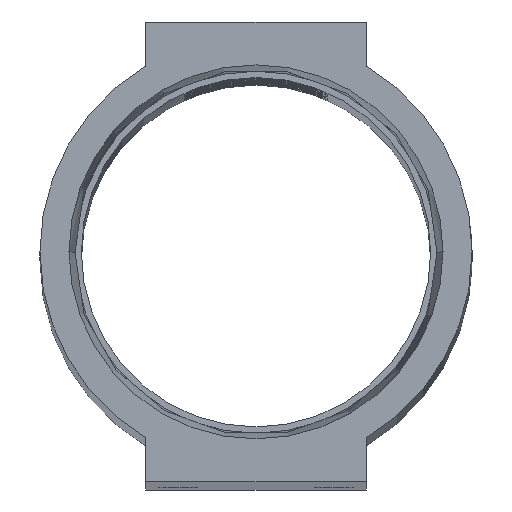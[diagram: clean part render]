
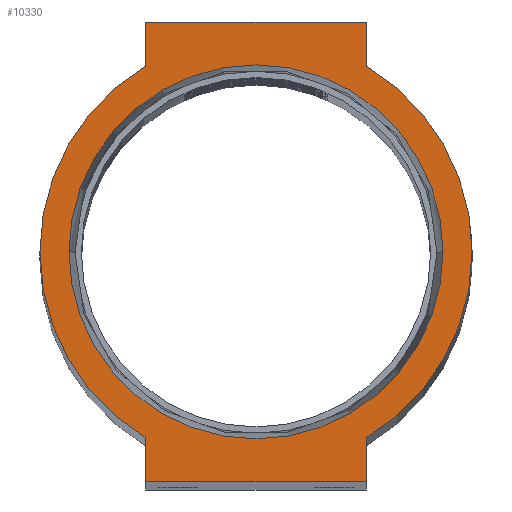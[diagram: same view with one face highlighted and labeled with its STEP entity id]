
A CAD part, top view. The second image highlights one B-rep face of the part: STEP entity #10330.
In plain terms, the highlighted planar face has unit normal (0, 0, 1).
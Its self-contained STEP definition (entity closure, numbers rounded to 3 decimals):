
#141 = ORIENTED_EDGE ( 'NONE', *, *, #13981, .F. ) ;
#536 = CIRCLE ( 'NONE', #14113, 20.34 ) ;
#713 = DIRECTION ( 'NONE',  ( 0., 0., 1. ) ) ;
#812 = DIRECTION ( 'NONE',  ( 1., 0., 0. ) ) ;
#1009 = CARTESIAN_POINT ( 'NONE',  ( 12., 25., 0. ) ) ;
#1186 = EDGE_CURVE ( 'NONE', #9439, #4131, #536, .T. ) ;
#1309 = VECTOR ( 'NONE', #5807, 1000. ) ;
#1314 = EDGE_CURVE ( 'NONE', #13382, #2453, #3136, .T. ) ;
#1426 = LINE ( 'NONE', #5742, #1309 ) ;
#1614 = CARTESIAN_POINT ( 'NONE',  ( 12., 25., 0. ) ) ;
#1709 = CARTESIAN_POINT ( 'NONE',  ( -12., -20.205, 0. ) ) ;
#1791 = FACE_OUTER_BOUND ( 'NONE', #8134, .T. ) ;
#1909 = ORIENTED_EDGE ( 'NONE', *, *, #4940, .T. ) ;
#2042 = ORIENTED_EDGE ( 'NONE', *, *, #8320, .T. ) ;
#2146 = CIRCLE ( 'NONE', #9281, 23.5 ) ;
#2237 = EDGE_CURVE ( 'NONE', #2453, #14073, #2146, .T. ) ;
#2453 = VERTEX_POINT ( 'NONE', #3851 ) ;
#2589 = ORIENTED_EDGE ( 'NONE', *, *, #8822, .T. ) ;
#2602 = DIRECTION ( 'NONE',  ( 0., 1., 0. ) ) ;
#2643 = CARTESIAN_POINT ( 'NONE',  ( 0., 0., 0. ) ) ;
#2923 = DIRECTION ( 'NONE',  ( 1., 0., 0. ) ) ;
#2933 = DIRECTION ( 'NONE',  ( -1., 0., 0. ) ) ;
#3136 = LINE ( 'NONE', #6404, #3991 ) ;
#3585 = DIRECTION ( 'NONE',  ( 1., 0., 0. ) ) ;
#3729 = ORIENTED_EDGE ( 'NONE', *, *, #2237, .T. ) ;
#3757 = DIRECTION ( 'NONE',  ( 1., 0., 0. ) ) ;
#3851 = CARTESIAN_POINT ( 'NONE',  ( -12., 20.205, 0. ) ) ;
#3886 = CARTESIAN_POINT ( 'NONE',  ( 0., 0., 0. ) ) ;
#3964 = LINE ( 'NONE', #12530, #7978 ) ;
#3991 = VECTOR ( 'NONE', #12882, 1000. ) ;
#4030 = DIRECTION ( 'NONE',  ( 0., -1., 0. ) ) ;
#4061 = AXIS2_PLACEMENT_3D ( 'NONE', #2643, #4880, #3585 ) ;
#4131 = VERTEX_POINT ( 'NONE', #7698 ) ;
#4276 = AXIS2_PLACEMENT_3D ( 'NONE', #9279, #7052, #7125 ) ;
#4287 = DIRECTION ( 'NONE',  ( 1., 0., 0. ) ) ;
#4880 = DIRECTION ( 'NONE',  ( 0., 0., 1. ) ) ;
#4940 = EDGE_CURVE ( 'NONE', #12234, #9977, #11403, .T. ) ;
#4944 = AXIS2_PLACEMENT_3D ( 'NONE', #12265, #9226, #3757 ) ;
#5096 = DIRECTION ( 'NONE',  ( 1., 0., 0. ) ) ;
#5128 = ORIENTED_EDGE ( 'NONE', *, *, #1186, .F. ) ;
#5175 = LINE ( 'NONE', #12675, #13743 ) ;
#5209 = CIRCLE ( 'NONE', #4061, 20.34 ) ;
#5325 = EDGE_LOOP ( 'NONE', ( #5128, #141 ) ) ;
#5742 = CARTESIAN_POINT ( 'NONE',  ( 12., -25., 0. ) ) ;
#5779 = EDGE_CURVE ( 'NONE', #9977, #13104, #9089, .T. ) ;
#5807 = DIRECTION ( 'NONE',  ( 0., 1., 0. ) ) ;
#6038 = CARTESIAN_POINT ( 'NONE',  ( 12., -20.205, 0. ) ) ;
#6112 = EDGE_CURVE ( 'NONE', #13104, #13382, #5175, .T. ) ;
#6319 = CARTESIAN_POINT ( 'NONE',  ( 0., 0., 0. ) ) ;
#6404 = CARTESIAN_POINT ( 'NONE',  ( -12., 25., 0. ) ) ;
#7052 = DIRECTION ( 'NONE',  ( 0., 0., 1. ) ) ;
#7125 = DIRECTION ( 'NONE',  ( 1., 0., 0. ) ) ;
#7179 = DIRECTION ( 'NONE',  ( 0., 0., 1. ) ) ;
#7488 = CARTESIAN_POINT ( 'NONE',  ( -12., -25., 0. ) ) ;
#7519 = CARTESIAN_POINT ( 'NONE',  ( 0., 0., 0. ) ) ;
#7529 = ORIENTED_EDGE ( 'NONE', *, *, #5779, .T. ) ;
#7536 = ORIENTED_EDGE ( 'NONE', *, *, #6112, .T. ) ;
#7666 = CIRCLE ( 'NONE', #4944, 23.5 ) ;
#7698 = CARTESIAN_POINT ( 'NONE',  ( -20.34, 0., 0. ) ) ;
#7878 = EDGE_CURVE ( 'NONE', #11445, #12234, #7666, .T. ) ;
#7978 = VECTOR ( 'NONE', #4030, 1000. ) ;
#8000 = VECTOR ( 'NONE', #812, 1000. ) ;
#8134 = EDGE_LOOP ( 'NONE', ( #7529, #7536, #12669, #3729, #2589, #8169, #2042, #12959, #1909 ) ) ;
#8169 = ORIENTED_EDGE ( 'NONE', *, *, #11111, .T. ) ;
#8218 = AXIS2_PLACEMENT_3D ( 'NONE', #6319, #713, #5096 ) ;
#8320 = EDGE_CURVE ( 'NONE', #10920, #11445, #1426, .T. ) ;
#8822 = EDGE_CURVE ( 'NONE', #14073, #11566, #3964, .T. ) ;
#9089 = LINE ( 'NONE', #1614, #9594 ) ;
#9226 = DIRECTION ( 'NONE',  ( 0., 0., 1. ) ) ;
#9279 = CARTESIAN_POINT ( 'NONE',  ( 0., 0., 0. ) ) ;
#9281 = AXIS2_PLACEMENT_3D ( 'NONE', #7519, #11923, #4287 ) ;
#9439 = VERTEX_POINT ( 'NONE', #11148 ) ;
#9594 = VECTOR ( 'NONE', #2602, 1000. ) ;
#9977 = VERTEX_POINT ( 'NONE', #10165 ) ;
#10165 = CARTESIAN_POINT ( 'NONE',  ( 12., 20.205, 0. ) ) ;
#10330 = ADVANCED_FACE ( 'NONE', ( #11716, #1791 ), #10576, .T. ) ;
#10576 = PLANE ( 'NONE',  #8218 ) ;
#10920 = VERTEX_POINT ( 'NONE', #12643 ) ;
#11111 = EDGE_CURVE ( 'NONE', #11566, #10920, #13122, .T. ) ;
#11148 = CARTESIAN_POINT ( 'NONE',  ( 20.34, 0., 0. ) ) ;
#11403 = CIRCLE ( 'NONE', #4276, 23.5 ) ;
#11445 = VERTEX_POINT ( 'NONE', #6038 ) ;
#11566 = VERTEX_POINT ( 'NONE', #13171 ) ;
#11716 = FACE_BOUND ( 'NONE', #5325, .T. ) ;
#11923 = DIRECTION ( 'NONE',  ( 0., 0., 1. ) ) ;
#12234 = VERTEX_POINT ( 'NONE', #13996 ) ;
#12265 = CARTESIAN_POINT ( 'NONE',  ( 0., 0., 0. ) ) ;
#12530 = CARTESIAN_POINT ( 'NONE',  ( -12., -25., 0. ) ) ;
#12643 = CARTESIAN_POINT ( 'NONE',  ( 12., -25., 0. ) ) ;
#12669 = ORIENTED_EDGE ( 'NONE', *, *, #1314, .T. ) ;
#12675 = CARTESIAN_POINT ( 'NONE',  ( -12., 25., 0. ) ) ;
#12882 = DIRECTION ( 'NONE',  ( 0., -1., 0. ) ) ;
#12959 = ORIENTED_EDGE ( 'NONE', *, *, #7878, .T. ) ;
#13104 = VERTEX_POINT ( 'NONE', #1009 ) ;
#13122 = LINE ( 'NONE', #7488, #8000 ) ;
#13171 = CARTESIAN_POINT ( 'NONE',  ( -12., -25., 0. ) ) ;
#13382 = VERTEX_POINT ( 'NONE', #13510 ) ;
#13510 = CARTESIAN_POINT ( 'NONE',  ( -12., 25., 0. ) ) ;
#13743 = VECTOR ( 'NONE', #2933, 1000. ) ;
#13981 = EDGE_CURVE ( 'NONE', #4131, #9439, #5209, .T. ) ;
#13996 = CARTESIAN_POINT ( 'NONE',  ( 23.5, 0., 0. ) ) ;
#14073 = VERTEX_POINT ( 'NONE', #1709 ) ;
#14113 = AXIS2_PLACEMENT_3D ( 'NONE', #3886, #7179, #2923 ) ;
